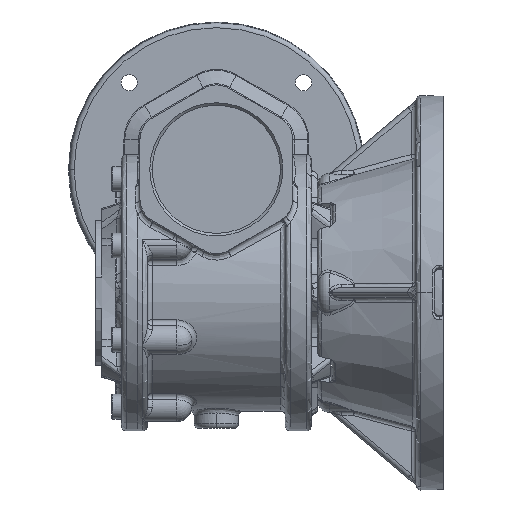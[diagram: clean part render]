
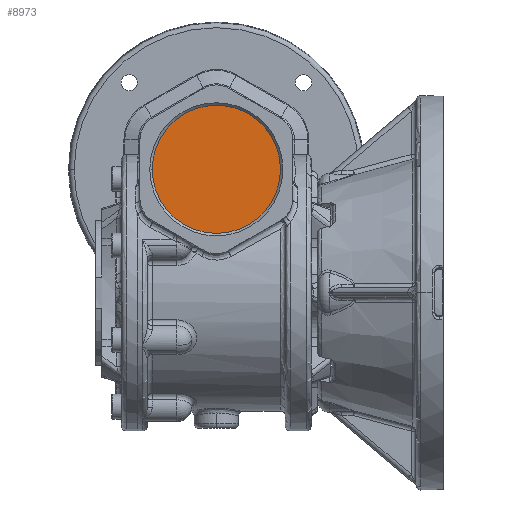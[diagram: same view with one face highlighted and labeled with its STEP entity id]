
A CAD part, top view. The second image highlights one B-rep face of the part: STEP entity #8973.
In plain terms, the highlighted planar face has unit normal (0, 0, 1).
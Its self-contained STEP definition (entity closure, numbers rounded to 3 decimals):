
#4712 = EDGE_CURVE ( 'NONE', #4791, #4792, #58584, .T. ) ;
#4791 = VERTEX_POINT ( 'NONE', #59052 ) ;
#4792 = VERTEX_POINT ( 'NONE', #59036 ) ;
#8904 = ORIENTED_EDGE ( 'NONE', *, *, #4712, .T. ) ;
#8912 = EDGE_LOOP ( 'NONE', ( #8975, #8904 ) ) ;
#8921 = EDGE_CURVE ( 'NONE', #4792, #4791, #37912, .T. ) ;
#8973 = ADVANCED_FACE ( 'NONE', ( #39543 ), #39489, .T. ) ;
#8975 = ORIENTED_EDGE ( 'NONE', *, *, #8921, .T. ) ;
#37806 = AXIS2_PLACEMENT_3D ( 'NONE', #37905, #37903, #37901 ) ;
#37901 = DIRECTION ( 'NONE',  ( 1., 0., 0. ) ) ;
#37903 = DIRECTION ( 'NONE',  ( 0., 0., 1. ) ) ;
#37905 = CARTESIAN_POINT ( 'NONE',  ( 0., 0., 64. ) ) ;
#37912 = CIRCLE ( 'NONE', #37806, 26. ) ;
#39429 = AXIS2_PLACEMENT_3D ( 'NONE', #39567, #39564, #39562 ) ;
#39489 = PLANE ( 'NONE',  #39429 ) ;
#39543 = FACE_OUTER_BOUND ( 'NONE', #8912, .T. ) ;
#39562 = DIRECTION ( 'NONE',  ( 1., 0., 0. ) ) ;
#39564 = DIRECTION ( 'NONE',  ( 0., 0., 1. ) ) ;
#39567 = CARTESIAN_POINT ( 'NONE',  ( 0., 0., 64. ) ) ;
#58563 = DIRECTION ( 'NONE',  ( 1., 0., 0. ) ) ;
#58577 = AXIS2_PLACEMENT_3D ( 'NONE', #58614, #58592, #58563 ) ;
#58584 = CIRCLE ( 'NONE', #58577, 26. ) ;
#58592 = DIRECTION ( 'NONE',  ( 0., 0., 1. ) ) ;
#58614 = CARTESIAN_POINT ( 'NONE',  ( 0., 0., 64. ) ) ;
#59036 = CARTESIAN_POINT ( 'NONE',  ( 26., 0., 64. ) ) ;
#59052 = CARTESIAN_POINT ( 'NONE',  ( -26., 0., 64. ) ) ;
